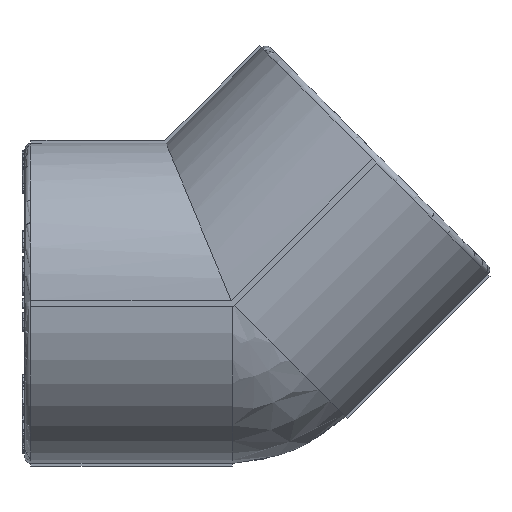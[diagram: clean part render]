
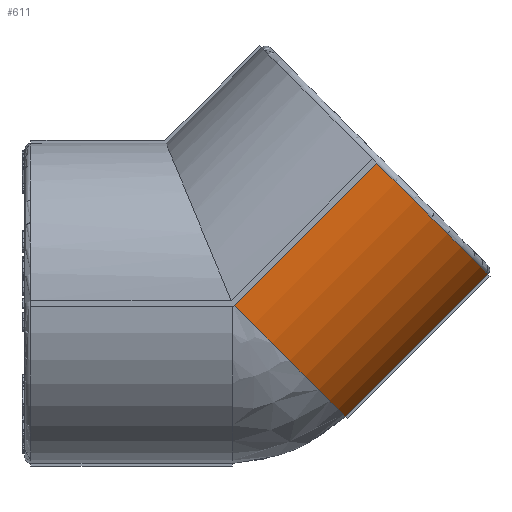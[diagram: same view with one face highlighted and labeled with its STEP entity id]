
A CAD part, left-side view. The second image highlights one B-rep face of the part: STEP entity #611.
In plain terms, the highlighted cylindrical face has radius 27 mm (diameter 54 mm), a partial arc.
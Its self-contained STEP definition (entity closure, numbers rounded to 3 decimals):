
#611=ADVANCED_FACE('',(#4295),#4297,.T.);
#4295=FACE_BOUND('',#4296,.T.);
#4296=EDGE_LOOP('',(#8489,#8490,#8491,#8492));
#4297=CYLINDRICAL_SURFACE('',#4298,27.);
#4298=AXIS2_PLACEMENT_3D('',#4299,#4300,#4301);
#4299=CARTESIAN_POINT('',(0.,0.,0.));
#4300=DIRECTION('',(0.,-0.707,0.707));
#4301=DIRECTION('',(1.,0.,0.));
#8489=ORIENTED_EDGE('',*,*,#10124,.F.);
#8490=ORIENTED_EDGE('',*,*,#10113,.F.);
#8491=ORIENTED_EDGE('',*,*,#10125,.F.);
#8492=ORIENTED_EDGE('',*,*,#10091,.F.);
#10091=EDGE_CURVE('',#12710,#12713,#12714,.T.);
#10113=EDGE_CURVE('',#12745,#12747,#12748,.T.);
#10124=EDGE_CURVE('',#12747,#12710,#12764,.F.);
#10125=EDGE_CURVE('',#12713,#12745,#12765,.T.);
#12710=VERTEX_POINT('',#18453);
#12713=VERTEX_POINT('',#18459);
#12714=CIRCLE('',#18460,27.);
#12745=VERTEX_POINT('',#18543);
#12747=VERTEX_POINT('',#18548);
#12748=CIRCLE('',#18549,27.);
#12764=LINE('',#18592,#18593);
#12765=LINE('',#18595,#18596);
#18453=CARTESIAN_POINT('',(-0.5,-19.089,-19.089));
#18459=CARTESIAN_POINT('',(-26.995,-0.354,-0.354));
#18460=AXIS2_PLACEMENT_3D('',#18461,#18462,#18463);
#18461=CARTESIAN_POINT('',(0.,0.,0.));
#18462=DIRECTION('',(0.,0.707,-0.707));
#18463=DIRECTION('',(-0.019,-0.707,-0.707));
#18543=CARTESIAN_POINT('',(-26.995,-24.395,23.688));
#18548=CARTESIAN_POINT('',(-0.5,-43.13,4.953));
#18549=AXIS2_PLACEMENT_3D('',#18550,#18551,#18552);
#18550=CARTESIAN_POINT('',(0.,-24.042,24.042));
#18551=DIRECTION('',(0.,-0.707,0.707));
#18552=DIRECTION('',(-1.,-0.013,-0.013));
#18592=CARTESIAN_POINT('',(-0.5,-19.089,-19.089));
#18593=VECTOR('',#18594,1.);
#18594=DIRECTION('',(0.,-0.707,0.707));
#18595=CARTESIAN_POINT('',(-26.995,-0.354,-0.354));
#18596=VECTOR('',#18597,1.);
#18597=DIRECTION('',(0.,-0.707,0.707));
